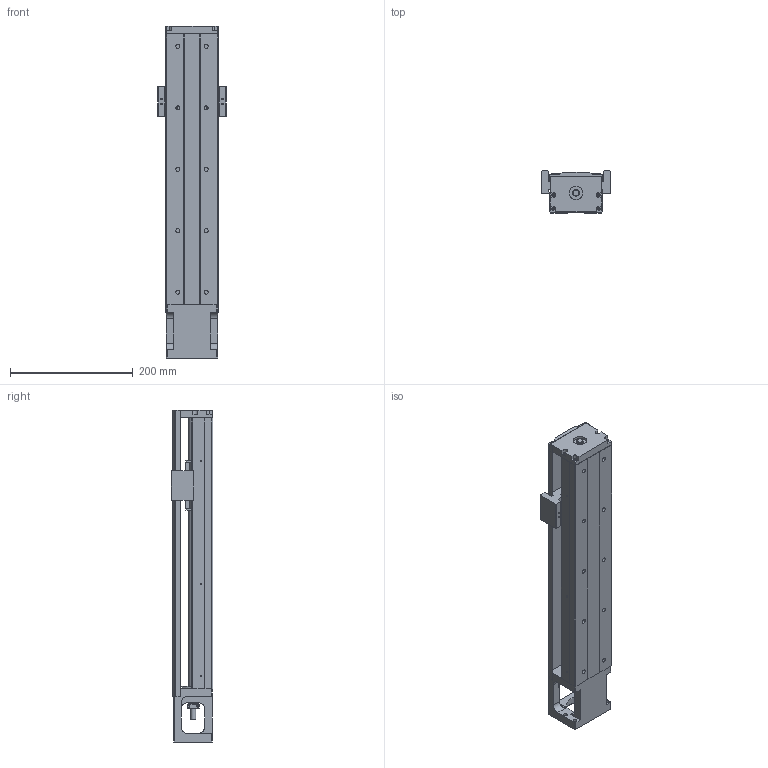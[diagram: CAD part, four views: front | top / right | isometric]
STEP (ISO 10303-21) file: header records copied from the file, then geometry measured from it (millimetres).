
FILE_DESCRIPTION(/* description */ (''),/* implementation_level */ '2;1');
FILE_NAME(/* name */ '46S-440C.stp',/* time_stamp */ '2016-12-20T14:05:49+08:00',/* author */ (''),/* organization */ (''),/* preprocessor_version */ 'ST-DEVELOPER v11',/* originating_system */ 'SIEMENS UGS NX 6.0',/* authorisation */ '');
FILE_SCHEMA (('AUTOMOTIVE_DESIGN { 1 0 10303 214 1 1 1 1 }'));
Length unit declared in the file: millimetre
Products named in the file (1): model4
Bounding box: 112 x 68 x 540 mm (x, y, z)
Volume: 1443711.4 mm3; surface area: 370308.3 mm2
Topology: 7 solids, 18 shells, 697 faces, 1829 edges, 1211 vertices
Faces by surface type: plane 337, cylinder 250, cone 55, bspline 47, torus 8
Full cylindrical faces by diameter (mm): 2 x2, 2.11 x2, 2.15 x6, 2.42 x6, 2.5 x4, 3 x4, 3.2 x4, 3.3 x12, 3.4 x8, 4 x6, 4.2 x4, 4.5 x8, 5 x8, 6 x8, 6.35 x2, 6.6 x10, 6.7 x2, 8 x1, 8.7 x4, 9.6 x1, 10 x3, 11 x10, 12 x1, 14.95 x2, 15 x1, 16 x2, 22 x3, 27.5 x1, 44 x1, 50 x1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
Entity records: 31878 total; most frequent: CARTESIAN_POINT 13225, ORIENTED_EDGE 3162, DIRECTION 3071, EDGE_CURVE 1581, VERTEX_POINT 1137, AXIS2_PLACEMENT_3D 1134, EDGE_LOOP 980, LINE 803
